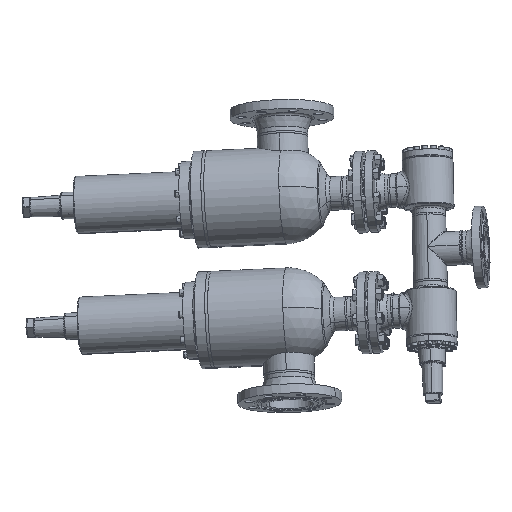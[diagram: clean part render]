
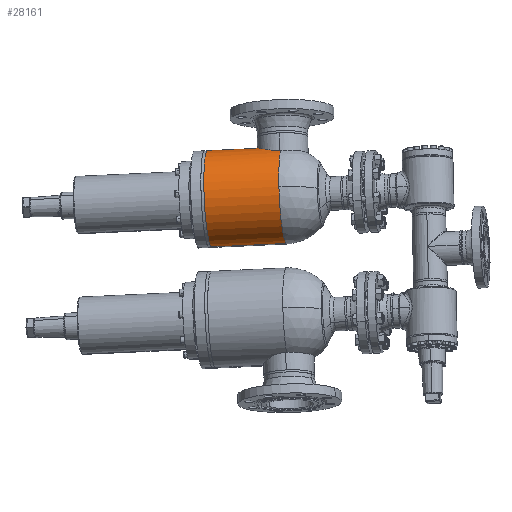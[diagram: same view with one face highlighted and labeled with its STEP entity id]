
A CAD part, top view. The second image highlights one B-rep face of the part: STEP entity #28161.
In plain terms, the highlighted cylindrical face has radius 109.55 mm (diameter 219.1 mm), a partial arc.
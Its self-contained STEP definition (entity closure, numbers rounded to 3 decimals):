
#17280 = VERTEX_POINT ( 'NONE', #34349 ) ;
#50383 = CARTESIAN_POINT ( 'NONE',  ( 0., -30.125, -109.55 ) ) ;
#17954 = EDGE_CURVE ( 'NONE', #17280, #48665, #35432, .T. ) ;
#34349 = CARTESIAN_POINT ( 'NONE',  ( 53.963, -201., -95.337 ) ) ;
#35432 = B_SPLINE_CURVE_WITH_KNOTS ( 'NONE', 3,
 ( #35433, #35477, #35478, #35479, #35480 ),
 .UNSPECIFIED., .F., .F.,
 ( 4, 1, 4 ),
 ( 0.255, 0.256, 0.257 ),
 .UNSPECIFIED. ) ;
#35433 = CARTESIAN_POINT ( 'NONE',  ( 53.963, -201., -95.337 ) ) ;
#35477 = CARTESIAN_POINT ( 'NONE',  ( 53.975, -200.667, -95.33 ) ) ;
#35478 = CARTESIAN_POINT ( 'NONE',  ( 53.994, -200., -95.32 ) ) ;
#35479 = CARTESIAN_POINT ( 'NONE',  ( 54., -199.333, -95.316 ) ) ;
#35480 = CARTESIAN_POINT ( 'NONE',  ( 54., -199., -95.316 ) ) ;
#52285 = CARTESIAN_POINT ( 'NONE',  ( 54., -199., -95.316 ) ) ;
#52494 = B_SPLINE_CURVE_WITH_KNOTS ( 'NONE', 3,
 ( #52495, #52496, #52497, #52498, #52499, #52500, #52541, #52542, #52543, #52544, #52545, #52546, #52547, #52548, #52549, #52550, #52551, #52552, #52553, #52554, #52555, #52556, #52599, #52600, #52601, #52602, #52603, #52604, #52605, #52606, #52607, #52608, #52609, #52610, #52611, #52612, #52613, #52614 ),
 .UNSPECIFIED., .F., .F.,
 ( 4, 2, 2, 2, 2, 2, 2, 2, 2, 2, 2, 2, 2, 2, 2, 2, 2, 2, 4 ),
 ( 0.257, 0.263, 0.265, 0.268, 0.279, 0.284, 0.29, 0.295, 0.298, 0.3, 0.311, 0.316, 0.319, 0.322, 0.332, 0.335, 0.338, 0.34, 0.343 ),
 .UNSPECIFIED. ) ;
#52495 = CARTESIAN_POINT ( 'NONE',  ( 54., -199., -95.316 ) ) ;
#52496 = CARTESIAN_POINT ( 'NONE',  ( 54., -197.216, -95.316 ) ) ;
#52497 = CARTESIAN_POINT ( 'NONE',  ( 53.912, -195.431, -95.366 ) ) ;
#52498 = CARTESIAN_POINT ( 'NONE',  ( 53.645, -192.752, -95.517 ) ) ;
#52499 = CARTESIAN_POINT ( 'NONE',  ( 53.533, -191.859, -95.579 ) ) ;
#52500 = CARTESIAN_POINT ( 'NONE',  ( 53.264, -190.072, -95.729 ) ) ;
#52541 = CARTESIAN_POINT ( 'NONE',  ( 53.108, -189.184, -95.816 ) ) ;
#52542 = CARTESIAN_POINT ( 'NONE',  ( 52.221, -184.795, -96.306 ) ) ;
#52543 = CARTESIAN_POINT ( 'NONE',  ( 51.178, -181.414, -96.873 ) ) ;
#52544 = CARTESIAN_POINT ( 'NONE',  ( 49.132, -176.523, -97.918 ) ) ;
#52545 = CARTESIAN_POINT ( 'NONE',  ( 48.365, -174.918, -98.3 ) ) ;
#52546 = CARTESIAN_POINT ( 'NONE',  ( 46.698, -171.827, -99.103 ) ) ;
#52547 = CARTESIAN_POINT ( 'NONE',  ( 45.796, -170.334, -99.524 ) ) ;
#52548 = CARTESIAN_POINT ( 'NONE',  ( 43.857, -167.448, -100.394 ) ) ;
#52549 = CARTESIAN_POINT ( 'NONE',  ( 42.821, -166.054, -100.842 ) ) ;
#52550 = CARTESIAN_POINT ( 'NONE',  ( 41.163, -164.038, -101.524 ) ) ;
#52551 = CARTESIAN_POINT ( 'NONE',  ( 40.593, -163.377, -101.754 ) ) ;
#52552 = CARTESIAN_POINT ( 'NONE',  ( 39.418, -162.082, -102.214 ) ) ;
#52553 = CARTESIAN_POINT ( 'NONE',  ( 38.814, -161.447, -102.446 ) ) ;
#52554 = CARTESIAN_POINT ( 'NONE',  ( 35.733, -158.364, -103.592 ) ) ;
#52555 = CARTESIAN_POINT ( 'NONE',  ( 33.06, -156.161, -104.486 ) ) ;
#52556 = CARTESIAN_POINT ( 'NONE',  ( 28.728, -153.243, -105.727 ) ) ;
#52599 = CARTESIAN_POINT ( 'NONE',  ( 27.23, -152.335, -106.124 ) ) ;
#52600 = CARTESIAN_POINT ( 'NONE',  ( 24.896, -151.073, -106.687 ) ) ;
#52601 = CARTESIAN_POINT ( 'NONE',  ( 24.103, -150.67, -106.869 ) ) ;
#52602 = CARTESIAN_POINT ( 'NONE',  ( 22.507, -149.906, -107.216 ) ) ;
#52603 = CARTESIAN_POINT ( 'NONE',  ( 21.701, -149.545, -107.382 ) ) ;
#52604 = CARTESIAN_POINT ( 'NONE',  ( 17.636, -147.839, -108.172 ) ) ;
#52605 = CARTESIAN_POINT ( 'NONE',  ( 14.264, -146.796, -108.674 ) ) ;
#52606 = CARTESIAN_POINT ( 'NONE',  ( 9.89, -145.906, -109.106 ) ) ;
#52607 = CARTESIAN_POINT ( 'NONE',  ( 9.007, -145.749, -109.183 ) ) ;
#52608 = CARTESIAN_POINT ( 'NONE',  ( 7.226, -145.478, -109.315 ) ) ;
#52609 = CARTESIAN_POINT ( 'NONE',  ( 6.325, -145.364, -109.371 ) ) ;
#52610 = CARTESIAN_POINT ( 'NONE',  ( 4.524, -145.182, -109.46 ) ) ;
#52611 = CARTESIAN_POINT ( 'NONE',  ( 3.622, -145.114, -109.494 ) ) ;
#52612 = CARTESIAN_POINT ( 'NONE',  ( 1.814, -145.023, -109.539 ) ) ;
#52613 = CARTESIAN_POINT ( 'NONE',  ( 0.906, -145., -109.55 ) ) ;
#52614 = CARTESIAN_POINT ( 'NONE',  ( 0., -145., -109.55 ) ) ;
#36769 = ORIENTED_EDGE ( 'NONE', *, *, #32687, .T. ) ;
#20425 = EDGE_CURVE ( 'NONE', #22510, #47032, #39462, .T. ) ;
#37018 = CARTESIAN_POINT ( 'NONE',  ( 0., -30.125, 109.55 ) ) ;
#20938 = ORIENTED_EDGE ( 'NONE', *, *, #20425, .T. ) ;
#37506 = CIRCLE ( 'NONE', #37507, 109.55 ) ;
#37507 = AXIS2_PLACEMENT_3D ( 'NONE', #37508, #37509, #37510 ) ;
#37508 = CARTESIAN_POINT ( 'NONE',  ( 0., -30.125, 0. ) ) ;
#37509 = DIRECTION ( 'NONE',  ( 0., 1., 0. ) ) ;
#37510 = DIRECTION ( 'NONE',  ( 0., 0., 1. ) ) ;
#38321 = EDGE_CURVE ( 'NONE', #41009, #32025, #22764, .T. ) ;
#5838 = FACE_OUTER_BOUND ( 'NONE', #27443, .T. ) ;
#5839 = CYLINDRICAL_SURFACE ( 'NONE', #5840, 109.55 ) ;
#5840 = AXIS2_PLACEMENT_3D ( 'NONE', #5841, #5842, #5843 ) ;
#5841 = CARTESIAN_POINT ( 'NONE',  ( 0., 0., 0. ) ) ;
#5842 = DIRECTION ( 'NONE',  ( 0., 1., 0. ) ) ;
#5843 = DIRECTION ( 'NONE',  ( 0., 0., 1. ) ) ;
#22510 = VERTEX_POINT ( 'NONE', #43274 ) ;
#22764 = CIRCLE ( 'NONE', #22765, 109.55 ) ;
#22765 = AXIS2_PLACEMENT_3D ( 'NONE', #22766, #22767, #22768 ) ;
#22766 = CARTESIAN_POINT ( 'NONE',  ( 0., -201., 0. ) ) ;
#22767 = DIRECTION ( 'NONE',  ( 0., 1., 0. ) ) ;
#22768 = DIRECTION ( 'NONE',  ( 0., 0., 1. ) ) ;
#39440 = ORIENTED_EDGE ( 'NONE', *, *, #38321, .T. ) ;
#39462 = LINE ( 'NONE', #39463, #39506 ) ;
#39463 = CARTESIAN_POINT ( 'NONE',  ( 0., 0., -109.55 ) ) ;
#39506 = VECTOR ( 'NONE', #39507, 1000. ) ;
#39507 = DIRECTION ( 'NONE',  ( 0., 1., 0. ) ) ;
#23176 = EDGE_CURVE ( 'NONE', #48665, #22510, #52494, .T. ) ;
#24306 = ORIENTED_EDGE ( 'NONE', *, *, #23176, .T. ) ;
#41009 = VERTEX_POINT ( 'NONE', #27406 ) ;
#41679 = EDGE_CURVE ( 'NONE', #41009, #44371, #28352, .T. ) ;
#25883 = ORIENTED_EDGE ( 'NONE', *, *, #17954, .T. ) ;
#42806 = ORIENTED_EDGE ( 'NONE', *, *, #41679, .F. ) ;
#43274 = CARTESIAN_POINT ( 'NONE',  ( 0., -145., -109.55 ) ) ;
#27406 = CARTESIAN_POINT ( 'NONE',  ( 0., -201., 109.55 ) ) ;
#27443 = EDGE_LOOP ( 'NONE', ( #25883, #24306, #20938, #45893, #42806, #39440, #36769 ) ) ;
#44371 = VERTEX_POINT ( 'NONE', #37018 ) ;
#28161 = ADVANCED_FACE ( 'NONE', ( #5838 ), #5839, .T. ) ;
#28352 = LINE ( 'NONE', #28353, #28354 ) ;
#28353 = CARTESIAN_POINT ( 'NONE',  ( 0., 0., 109.55 ) ) ;
#28354 = VECTOR ( 'NONE', #28355, 1000. ) ;
#28355 = DIRECTION ( 'NONE',  ( 0., 1., 0. ) ) ;
#45035 = EDGE_CURVE ( 'NONE', #44371, #47032, #37506, .T. ) ;
#12429 = CARTESIAN_POINT ( 'NONE',  ( 109.55, -201., 0. ) ) ;
#45893 = ORIENTED_EDGE ( 'NONE', *, *, #45035, .F. ) ;
#13877 = CIRCLE ( 'NONE', #13878, 109.55 ) ;
#13878 = AXIS2_PLACEMENT_3D ( 'NONE', #13879, #13880, #13881 ) ;
#13879 = CARTESIAN_POINT ( 'NONE',  ( 0., -201., 0. ) ) ;
#13880 = DIRECTION ( 'NONE',  ( 0., 1., 0. ) ) ;
#13881 = DIRECTION ( 'NONE',  ( 0., 0., 1. ) ) ;
#47032 = VERTEX_POINT ( 'NONE', #50383 ) ;
#32025 = VERTEX_POINT ( 'NONE', #12429 ) ;
#48665 = VERTEX_POINT ( 'NONE', #52285 ) ;
#32687 = EDGE_CURVE ( 'NONE', #32025, #17280, #13877, .T. ) ;
